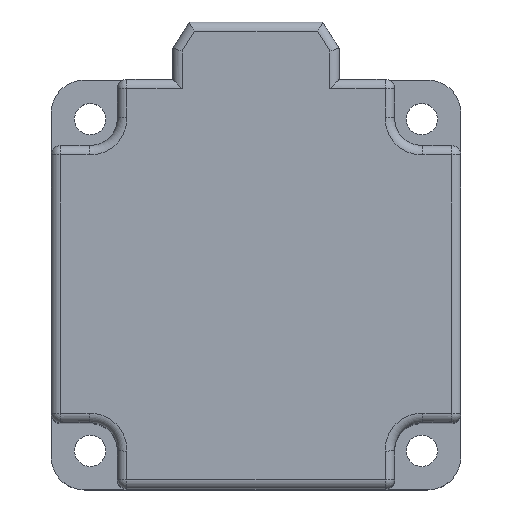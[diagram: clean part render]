
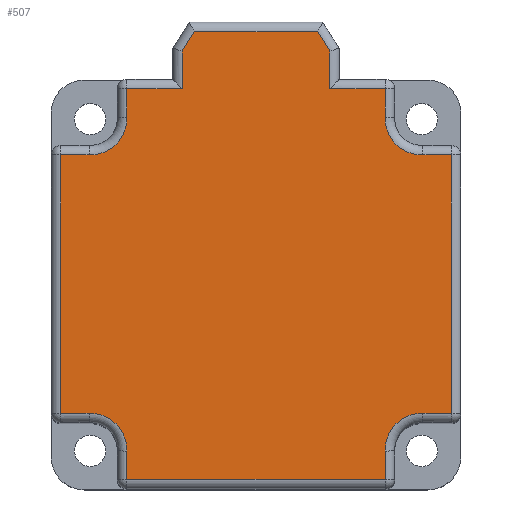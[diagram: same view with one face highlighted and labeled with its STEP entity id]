
A CAD part, top view. The second image highlights one B-rep face of the part: STEP entity #507.
In plain terms, the highlighted planar face has unit normal (0, 0, 1).
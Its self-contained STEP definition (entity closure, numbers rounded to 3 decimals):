
#507=ADVANCED_FACE('',(#1262),#1264,.T.);
#1262=FACE_BOUND('',#1263,.T.);
#1263=EDGE_LOOP('',(#1787,#1788,#1789,#1790,#1791,#1792,#1793,#1794,#1795,#1796,
#1797,#1798,#1799,#1800,#1801,#1802,#1803,#1804,#1805,#1806,#1807,#1808));
#1264=PLANE('',#1265);
#1265=AXIS2_PLACEMENT_3D('',#1266,#1267,#1268);
#1266=CARTESIAN_POINT('',(0.,0.,118.));
#1267=DIRECTION('',(0.,0.,1.));
#1268=DIRECTION('',(1.,0.,0.));
#1787=ORIENTED_EDGE('',*,*,#2086,.T.);
#1788=ORIENTED_EDGE('',*,*,#2105,.T.);
#1789=ORIENTED_EDGE('',*,*,#2106,.F.);
#1790=ORIENTED_EDGE('',*,*,#2107,.F.);
#1791=ORIENTED_EDGE('',*,*,#2108,.F.);
#1792=ORIENTED_EDGE('',*,*,#2109,.F.);
#1793=ORIENTED_EDGE('',*,*,#2093,.T.);
#1794=ORIENTED_EDGE('',*,*,#2110,.T.);
#1795=ORIENTED_EDGE('',*,*,#2111,.T.);
#1796=ORIENTED_EDGE('',*,*,#2112,.T.);
#1797=ORIENTED_EDGE('',*,*,#2074,.T.);
#1798=ORIENTED_EDGE('',*,*,#2113,.T.);
#1799=ORIENTED_EDGE('',*,*,#2114,.T.);
#1800=ORIENTED_EDGE('',*,*,#2115,.T.);
#1801=ORIENTED_EDGE('',*,*,#2062,.T.);
#1802=ORIENTED_EDGE('',*,*,#2116,.T.);
#1803=ORIENTED_EDGE('',*,*,#2117,.T.);
#1804=ORIENTED_EDGE('',*,*,#2118,.T.);
#1805=ORIENTED_EDGE('',*,*,#2045,.T.);
#1806=ORIENTED_EDGE('',*,*,#2119,.T.);
#1807=ORIENTED_EDGE('',*,*,#2120,.T.);
#1808=ORIENTED_EDGE('',*,*,#2121,.T.);
#2045=EDGE_CURVE('',#2322,#2320,#2323,.T.);
#2062=EDGE_CURVE('',#2351,#2349,#2352,.T.);
#2074=EDGE_CURVE('',#2371,#2369,#2372,.T.);
#2086=EDGE_CURVE('',#2391,#2389,#2392,.T.);
#2093=EDGE_CURVE('',#2402,#2400,#2403,.T.);
#2105=EDGE_CURVE('',#2389,#2421,#2422,.T.);
#2106=EDGE_CURVE('',#2423,#2421,#2424,.F.);
#2107=EDGE_CURVE('',#2425,#2423,#2426,.T.);
#2108=EDGE_CURVE('',#2427,#2425,#2428,.F.);
#2109=EDGE_CURVE('',#2402,#2427,#2429,.T.);
#2110=EDGE_CURVE('',#2400,#2430,#2431,.F.);
#2111=EDGE_CURVE('',#2430,#2432,#2433,.F.);
#2112=EDGE_CURVE('',#2432,#2371,#2434,.F.);
#2113=EDGE_CURVE('',#2369,#2435,#2436,.F.);
#2114=EDGE_CURVE('',#2435,#2437,#2438,.F.);
#2115=EDGE_CURVE('',#2437,#2351,#2439,.F.);
#2116=EDGE_CURVE('',#2349,#2440,#2441,.F.);
#2117=EDGE_CURVE('',#2440,#2442,#2443,.F.);
#2118=EDGE_CURVE('',#2442,#2322,#2444,.F.);
#2119=EDGE_CURVE('',#2320,#2445,#2446,.F.);
#2120=EDGE_CURVE('',#2445,#2447,#2448,.F.);
#2121=EDGE_CURVE('',#2447,#2391,#2449,.F.);
#2320=VERTEX_POINT('',#2967);
#2322=VERTEX_POINT('',#2972);
#2323=LINE('',#2973,#2974);
#2349=VERTEX_POINT('',#3040);
#2351=VERTEX_POINT('',#3045);
#2352=LINE('',#3046,#3047);
#2369=VERTEX_POINT('',#3091);
#2371=VERTEX_POINT('',#3096);
#2372=LINE('',#3097,#3098);
#2389=VERTEX_POINT('',#3142);
#2391=VERTEX_POINT('',#3147);
#2392=LINE('',#3148,#3149);
#2400=VERTEX_POINT('',#3171);
#2402=VERTEX_POINT('',#3176);
#2403=LINE('',#3177,#3178);
#2421=VERTEX_POINT('',#3221);
#2422=LINE('',#3222,#3223);
#2423=VERTEX_POINT('',#3225);
#2424=LINE('',#3226,#3227);
#2425=VERTEX_POINT('',#3229);
#2426=LINE('',#3230,#3231);
#2427=VERTEX_POINT('',#3233);
#2428=LINE('',#3234,#3235);
#2429=LINE('',#3237,#3238);
#2430=VERTEX_POINT('',#3240);
#2431=LINE('',#3241,#3242);
#2432=VERTEX_POINT('',#3244);
#2433=CIRCLE('',#3245,7.704);
#2434=LINE('',#3249,#3250);
#2435=VERTEX_POINT('',#3252);
#2436=LINE('',#3253,#3254);
#2437=VERTEX_POINT('',#3256);
#2438=CIRCLE('',#3257,7.704);
#2439=LINE('',#3261,#3262);
#2440=VERTEX_POINT('',#3264);
#2441=LINE('',#3265,#3266);
#2442=VERTEX_POINT('',#3268);
#2443=CIRCLE('',#3269,7.704);
#2444=LINE('',#3273,#3274);
#2445=VERTEX_POINT('',#3276);
#2446=LINE('',#3277,#3278);
#2447=VERTEX_POINT('',#3280);
#2448=CIRCLE('',#3281,7.704);
#2449=LINE('',#3285,#3286);
#2967=CARTESIAN_POINT('',(41.,27.1,118.));
#2972=CARTESIAN_POINT('',(41.,-27.1,118.));
#2973=CARTESIAN_POINT('',(41.,-27.1,118.));
#2974=VECTOR('',#2975,1.);
#2975=DIRECTION('',(0.,1.,0.));
#3040=CARTESIAN_POINT('',(27.1,-41.,118.));
#3045=CARTESIAN_POINT('',(-27.1,-41.,118.));
#3046=CARTESIAN_POINT('',(-27.1,-41.,118.));
#3047=VECTOR('',#3048,1.);
#3048=DIRECTION('',(1.,0.,0.));
#3091=CARTESIAN_POINT('',(-41.,-27.1,118.));
#3096=CARTESIAN_POINT('',(-41.,27.1,118.));
#3097=CARTESIAN_POINT('',(-41.,27.1,118.));
#3098=VECTOR('',#3099,1.);
#3099=DIRECTION('',(0.,-1.,0.));
#3142=CARTESIAN_POINT('',(15.5,41.,118.));
#3147=CARTESIAN_POINT('',(27.1,41.,118.));
#3148=CARTESIAN_POINT('',(27.1,41.,118.));
#3149=VECTOR('',#3150,1.);
#3150=DIRECTION('',(-1.,0.,0.));
#3171=CARTESIAN_POINT('',(-27.1,41.,118.));
#3176=CARTESIAN_POINT('',(-15.5,41.,118.));
#3177=CARTESIAN_POINT('',(-15.5,41.,118.));
#3178=VECTOR('',#3179,1.);
#3179=DIRECTION('',(-1.,0.,0.));
#3221=CARTESIAN_POINT('',(15.5,48.918,118.));
#3222=CARTESIAN_POINT('',(15.5,41.,118.));
#3223=VECTOR('',#3224,1.);
#3224=DIRECTION('',(0.,1.,0.));
#3225=CARTESIAN_POINT('',(12.902,53.,118.));
#3226=CARTESIAN_POINT('',(15.5,48.918,118.));
#3227=VECTOR('',#3228,1.);
#3228=DIRECTION('',(-0.537,0.844,0.));
#3229=CARTESIAN_POINT('',(-12.902,53.,118.));
#3230=CARTESIAN_POINT('',(-12.902,53.,118.));
#3231=VECTOR('',#3232,1.);
#3232=DIRECTION('',(1.,0.,0.));
#3233=CARTESIAN_POINT('',(-15.5,48.918,118.));
#3234=CARTESIAN_POINT('',(-12.902,53.,118.));
#3235=VECTOR('',#3236,1.);
#3236=DIRECTION('',(-0.537,-0.844,0.));
#3237=CARTESIAN_POINT('',(-15.5,41.,118.));
#3238=VECTOR('',#3239,1.);
#3239=DIRECTION('',(0.,1.,0.));
#3240=CARTESIAN_POINT('',(-27.1,35.032,118.));
#3241=CARTESIAN_POINT('',(-27.1,35.032,118.));
#3242=VECTOR('',#3243,1.);
#3243=DIRECTION('',(0.,1.,0.));
#3244=CARTESIAN_POINT('',(-35.032,27.1,118.));
#3245=AXIS2_PLACEMENT_3D('',#3246,#3247,#3248);
#3246=CARTESIAN_POINT('',(-34.8,34.8,118.));
#3247=DIRECTION('',(0.,0.,1.));
#3248=DIRECTION('',(-0.03,-1.,0.));
#3249=CARTESIAN_POINT('',(-41.,27.1,118.));
#3250=VECTOR('',#3251,1.);
#3251=DIRECTION('',(1.,0.,0.));
#3252=CARTESIAN_POINT('',(-35.032,-27.1,118.));
#3253=CARTESIAN_POINT('',(-35.032,-27.1,118.));
#3254=VECTOR('',#3255,1.);
#3255=DIRECTION('',(-1.,0.,0.));
#3256=CARTESIAN_POINT('',(-27.1,-35.032,118.));
#3257=AXIS2_PLACEMENT_3D('',#3258,#3259,#3260);
#3258=CARTESIAN_POINT('',(-34.8,-34.8,118.));
#3259=DIRECTION('',(0.,0.,1.));
#3260=DIRECTION('',(1.,-0.03,0.));
#3261=CARTESIAN_POINT('',(-27.1,-41.,118.));
#3262=VECTOR('',#3263,1.);
#3263=DIRECTION('',(0.,1.,0.));
#3264=CARTESIAN_POINT('',(27.1,-35.032,118.));
#3265=CARTESIAN_POINT('',(27.1,-35.032,118.));
#3266=VECTOR('',#3267,1.);
#3267=DIRECTION('',(0.,-1.,0.));
#3268=CARTESIAN_POINT('',(35.032,-27.1,118.));
#3269=AXIS2_PLACEMENT_3D('',#3270,#3271,#3272);
#3270=CARTESIAN_POINT('',(34.8,-34.8,118.));
#3271=DIRECTION('',(0.,0.,1.));
#3272=DIRECTION('',(0.03,1.,0.));
#3273=CARTESIAN_POINT('',(41.,-27.1,118.));
#3274=VECTOR('',#3275,1.);
#3275=DIRECTION('',(-1.,0.,0.));
#3276=CARTESIAN_POINT('',(35.032,27.1,118.));
#3277=CARTESIAN_POINT('',(35.032,27.1,118.));
#3278=VECTOR('',#3279,1.);
#3279=DIRECTION('',(1.,0.,0.));
#3280=CARTESIAN_POINT('',(27.1,35.032,118.));
#3281=AXIS2_PLACEMENT_3D('',#3282,#3283,#3284);
#3282=CARTESIAN_POINT('',(34.8,34.8,118.));
#3283=DIRECTION('',(0.,0.,1.));
#3284=DIRECTION('',(-1.,0.03,0.));
#3285=CARTESIAN_POINT('',(27.1,41.,118.));
#3286=VECTOR('',#3287,1.);
#3287=DIRECTION('',(0.,-1.,0.));
